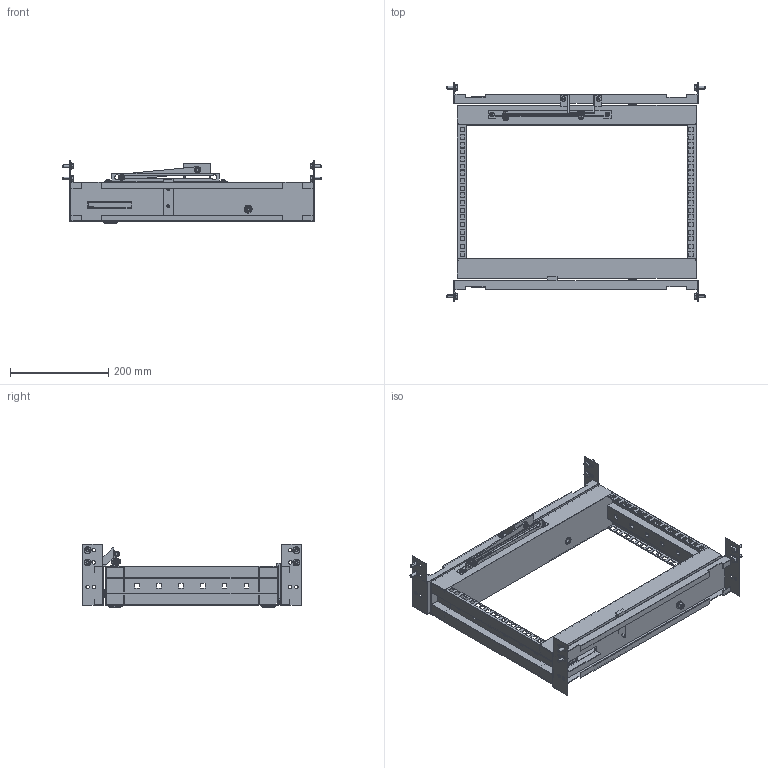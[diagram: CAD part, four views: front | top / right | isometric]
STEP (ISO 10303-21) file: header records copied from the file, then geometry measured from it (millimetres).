
FILE_DESCRIPTION(('Open CASCADE Model'),'2;1');
FILE_NAME('Open CASCADE Shape Model','2025-03-24T10:14:23',('Author'),( 'Open CASCADE'),'Open CASCADE STEP processor 7.8','Open CASCADE 7.8' ,'Unknown');
FILE_SCHEMA(('AUTOMOTIVE_DESIGN { 1 0 10303 214 1 1 1 1 }'));
Length unit declared in the file: millimetre
Products named in the file (28): Compound1; Compound2; Solid1; Solid2; Compound3; Solid3; Solid4; Solid5; Solid6; Solid7; Solid8; Solid9; Solid10; Solid11; Solid12; Solid13; Solid14; Compound4; Solid15; Solid16; Solid17; Solid18; Compound5; Solid19; Solid20; Solid21; Solid22; Solid23
Assembly tree (44 placements, depth 3):
  Compound1
    Compound2
      Solid1
      Solid2
    Compound3
      Solid3
      Solid2
    Solid4  x2
    Solid5  x2
    Solid6
    Solid7
    Solid8
    Solid9
    Solid10
    Solid11  x2
    Solid12  x4
    Solid13  x8
    Solid14
    Compound4
      Solid15
      Solid16
    Solid17
    Solid18
    Compound5
      Solid19  x2
      Solid20
      Solid21  x2
      Solid22
      Solid23  x2
Bounding box: 526 x 445.5 x 130 mm (x, y, z)
Volume: 841296.6 mm3; surface area: 992335.2 mm2
Topology: 40 solids, 58 shells, 2672 faces, 7473 edges, 4871 vertices
Faces by surface type: plane 1462, cylinder 594, cone 222, bspline 180, torus 156, sphere 58
Entity records: 56391 total; most frequent: CARTESIAN_POINT 15926, ORIENTED_EDGE 8418, DIRECTION 7827, EDGE_CURVE 4379, LINE 2907, VECTOR 2907, VERTEX_POINT 2892, AXIS2_PLACEMENT_3D 2460
